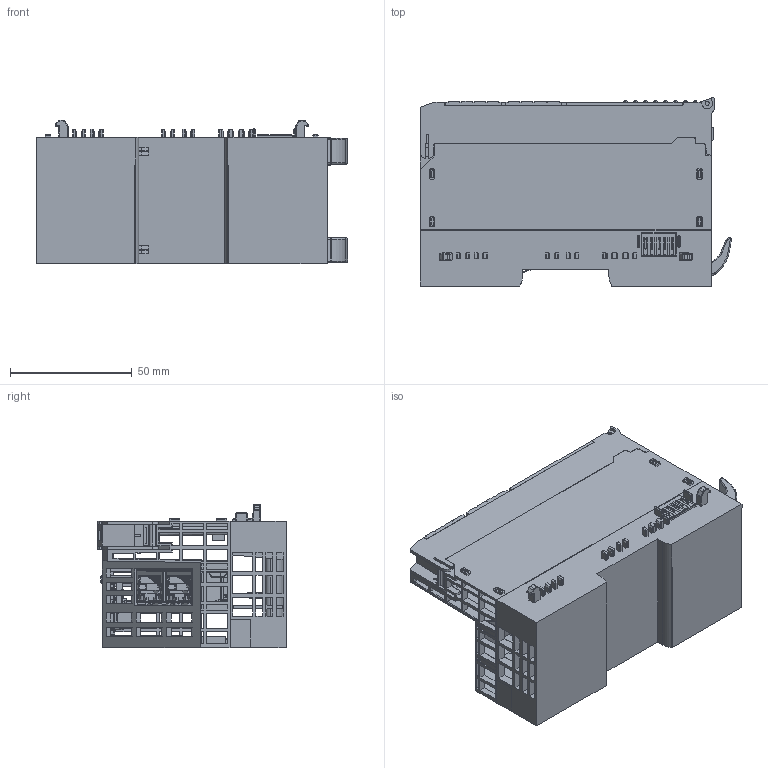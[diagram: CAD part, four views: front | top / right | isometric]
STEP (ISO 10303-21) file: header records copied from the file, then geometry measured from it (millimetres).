
FILE_DESCRIPTION(('CATIA V5 STEP Exchange','CAx-IF Rec.Pracs.--- Model Styling and Organization---1.4--- 2014-01-23'),'2;1');
FILE_NAME('C:\workspaces\UR20-ECO-Coupler-Realisierung\SP_UR20-FBC-CC-LINK_IENG.stp','2019-05-28T09:28:06+00:00',('none'),('none'),'CATIA Version 5-6 Release 2016 SP3 HF44','CATIA V5 STEP AP214','none');
FILE_SCHEMA(('AUTOMOTIVE_DESIGN { 1 0 10303 214 1 1 1 1 }'));
Products named in the file (15): SP UR20-FBC-CC-LINK_IENG; SP UR20 HOUP FBC CC-LINK; SA PCBA FBC CC-LINK; 54256_UR20_PCB_FCO_POWER; UR20-ECO_PCB_CONTROLLER-V2; UC20_FOR_CPU_2MM-PCB; PULSE_RJ45_JXD0-9007NL; DIP-SWITCH KNITTER SBP61008T; USB ZX62D-AB-5P8; SP UC20_CV_HOUP_CPU; SP UR20 HOLP FBC; SP_UR20_PK_FBC; SP_UR20_CNFR_FBC; SP_UR20_PG1-5; SP_UR20_PG1-5_DONC
Assembly tree (16 placements, depth 3):
  SP UR20-FBC-CC-LINK_IENG
    SP UR20 HOUP FBC CC-LINK
    SA PCBA FBC CC-LINK
      54256_UR20_PCB_FCO_POWER
      UR20-ECO_PCB_CONTROLLER-V2
      UC20_FOR_CPU_2MM-PCB
      PULSE_RJ45_JXD0-9007NL  x2
      DIP-SWITCH KNITTER SBP61008T
      USB ZX62D-AB-5P8
    SP UC20_CV_HOUP_CPU
    SP UR20 HOLP FBC
    SP_UR20_PK_FBC
      SP_UR20_CNFR_FBC
      SP_UR20_PG1-5  x2
      SP_UR20_PG1-5_DONC
Bounding box: 127.88 x 77.45 x 59 mm (x, y, z)
Volume: 129821.4 mm3; surface area: 146321.9 mm2
Topology: 19 solids, 89 shells, 9266 faces, 25646 edges, 16574 vertices
Faces by surface type: plane 7518, cylinder 1504, bspline 116, sphere 54, torus 52, cone 12, revolution 10
Entity records: 231598 total; most frequent: CARTESIAN_POINT 48768, ORIENTED_EDGE 40464, DIRECTION 30081, EDGE_CURVE 20232, VECTOR 17276, LINE 17276, VERTEX_POINT 13175, EDGE_LOOP 7961
